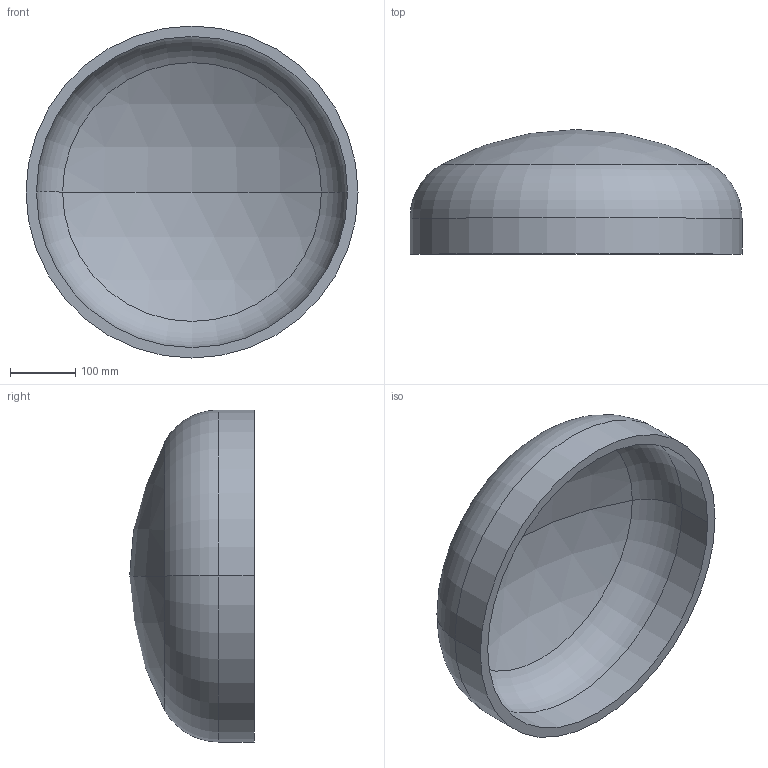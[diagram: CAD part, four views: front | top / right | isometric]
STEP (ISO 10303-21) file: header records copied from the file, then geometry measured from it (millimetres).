
FILE_DESCRIPTION (( 'STEP AP203' ), '1' );
FILE_NAME ('DIN 28013 Korbbogenform_-_Boden DIN 28013 - 508 x 55 - I - s=16.step', '2016-07-01T07:52:44', ( '' ), ( '' ), 'SwSTEP 2.0', 'SolidWorks 2013', '' );
FILE_SCHEMA (( 'CONFIG_CONTROL_DESIGN' ));
Length unit declared in the file: millimetre
Products named in the file (1): DIN 28013 Korbbogenform_-_Boden DIN 28013 - 508 x 55 - I - s=16
Bounding box: 508 x 190.67 x 508 mm (x, y, z)
Volume: 5668488.8 mm3; surface area: 733827.7 mm2
Topology: 1 solids, 1 shells, 13 faces, 24 edges, 14 vertices
Faces by surface type: torus 4, cylinder 4, sphere 4, plane 1
Entity records: 407 total; most frequent: DIRECTION 72, CARTESIAN_POINT 52, ORIENTED_EDGE 48, AXIS2_PLACEMENT_3D 34, EDGE_CURVE 24, CIRCLE 20, VERTEX_POINT 14, EDGE_LOOP 14
